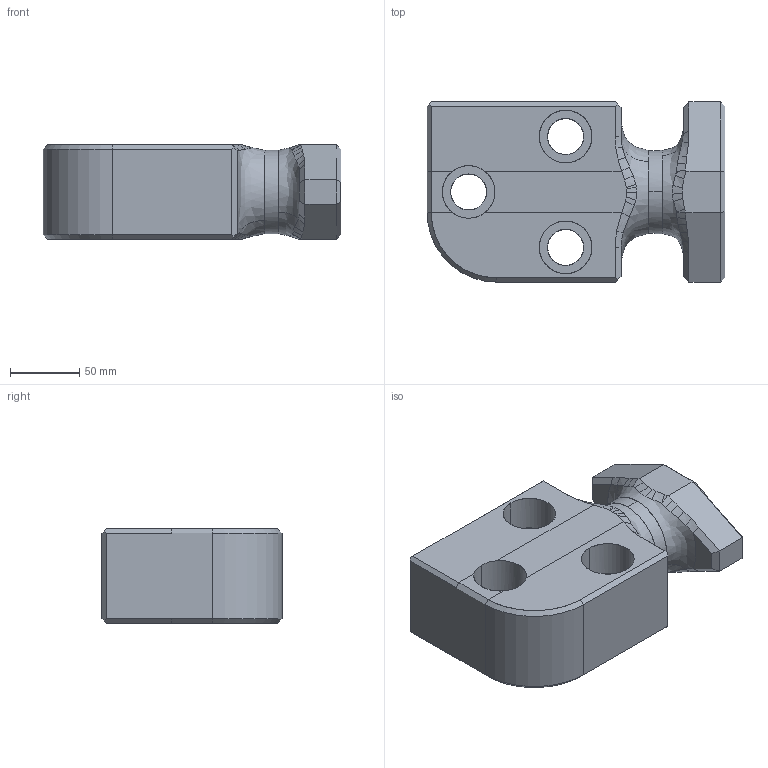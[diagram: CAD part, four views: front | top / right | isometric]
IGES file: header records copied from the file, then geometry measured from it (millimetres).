
Global section: file name: E:\UnigraphicsGraphicData\MISUMI_PRESS-PARTS\IGES\3d_chu60r_03571_r00.igs; native system: NX V5.0; preprocessor: UGS NX IGES V5.0; author: MISUMI; date: 20110105.160243; units: millimetre
Bounding box: 215 x 130 x 68 mm (x, y, z)
Surface area: 106875.1 mm2 (no closed solid volume)
Topology: 0 solids, 0 shells, 134 faces, 913 edges, 913 vertices
Faces by surface type: bspline 134
